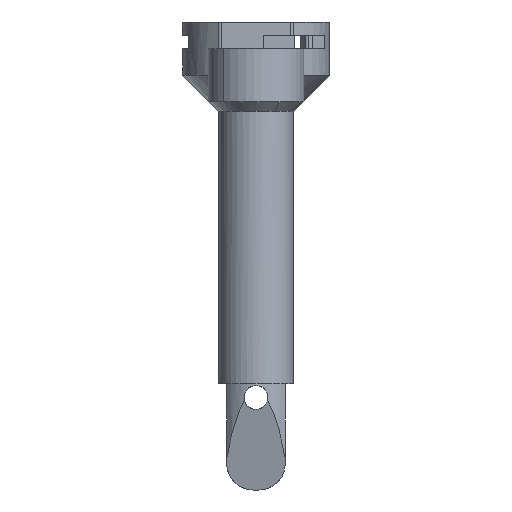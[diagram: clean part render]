
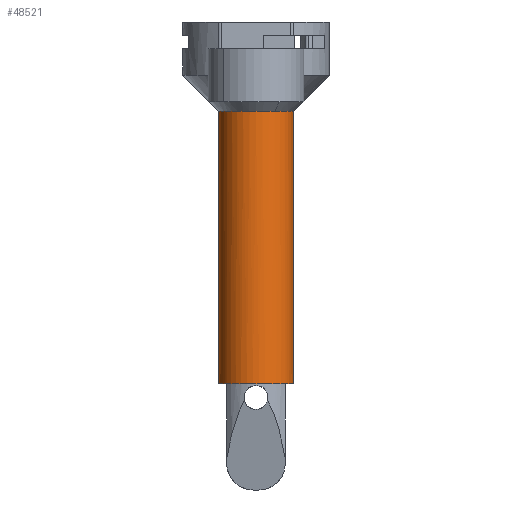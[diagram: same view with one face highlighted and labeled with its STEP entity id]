
A CAD part, front view. The second image highlights one B-rep face of the part: STEP entity #48521.
In plain terms, the highlighted cylindrical face has radius 7 mm (diameter 14 mm), a partial arc.
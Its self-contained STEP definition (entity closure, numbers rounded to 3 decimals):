
#48=AXIS2_PLACEMENT_3D('Circle Axis2P3D',#46,#47,$) ;
#113=AXIS2_PLACEMENT_3D('Circle Axis2P3D',#111,#112,$) ;
#158=AXIS2_PLACEMENT_3D('Circle Axis2P3D',#156,#157,$) ;
#48474=AXIS2_PLACEMENT_3D('Cylinder Axis2P3D',#48471,#48472,#48473) ;
#48478=AXIS2_PLACEMENT_3D('Circle Axis2P3D',#48476,#48477,$) ;
#48487=AXIS2_PLACEMENT_3D('Circle Axis2P3D',#48485,#48486,$) ;
#48492=AXIS2_PLACEMENT_3D('Circle Axis2P3D',#48490,#48491,$) ;
#48499=AXIS2_PLACEMENT_3D('Circle Axis2P3D',#48497,#48498,$) ;
#48506=AXIS2_PLACEMENT_3D('Circle Axis2P3D',#48504,#48505,$) ;
#41=CARTESIAN_POINT('Vertex',(3.5,-6.062,17.2)) ;
#46=CARTESIAN_POINT('Axis2P3D Location',(0.,0.,17.2)) ;
#50=CARTESIAN_POINT('Vertex',(7.,0.,17.2)) ;
#111=CARTESIAN_POINT('Axis2P3D Location',(0.,0.,17.2)) ;
#115=CARTESIAN_POINT('Vertex',(0.,-7.,17.2)) ;
#153=CARTESIAN_POINT('Vertex',(-7.,0.,17.2)) ;
#156=CARTESIAN_POINT('Axis2P3D Location',(0.,0.,17.2)) ;
#48430=CARTESIAN_POINT('Line Origine',(7.,0.,0.)) ;
#48434=CARTESIAN_POINT('Vertex',(7.,0.,-34.)) ;
#48441=CARTESIAN_POINT('Vertex',(-7.,0.,-34.)) ;
#48444=CARTESIAN_POINT('Line Origine',(-7.,0.,0.)) ;
#48471=CARTESIAN_POINT('Axis2P3D Location',(0.,0.,0.)) ;
#48476=CARTESIAN_POINT('Axis2P3D Location',(0.,0.,-34.)) ;
#48480=CARTESIAN_POINT('Vertex',(5.5,-4.33,-34.)) ;
#48482=CARTESIAN_POINT('Vertex',(5.745,-4.,-34.)) ;
#48485=CARTESIAN_POINT('Axis2P3D Location',(0.,0.,-34.)) ;
#48490=CARTESIAN_POINT('Axis2P3D Location',(0.,0.,-34.)) ;
#48494=CARTESIAN_POINT('Vertex',(-5.745,-4.,-34.)) ;
#48497=CARTESIAN_POINT('Axis2P3D Location',(0.,0.,-34.)) ;
#48501=CARTESIAN_POINT('Vertex',(-5.5,-4.33,-34.)) ;
#48504=CARTESIAN_POINT('Axis2P3D Location',(0.,0.,-34.)) ;
#47=DIRECTION('Axis2P3D Direction',(0.,0.,1.)) ;
#112=DIRECTION('Axis2P3D Direction',(0.,0.,1.)) ;
#157=DIRECTION('Axis2P3D Direction',(0.,0.,1.)) ;
#48431=DIRECTION('Vector Direction',(0.,0.,1.)) ;
#48445=DIRECTION('Vector Direction',(0.,0.,1.)) ;
#48472=DIRECTION('Axis2P3D Direction',(0.,0.,1.)) ;
#48473=DIRECTION('Axis2P3D XDirection',(-1.,0.,0.)) ;
#48477=DIRECTION('Axis2P3D Direction',(0.,0.,1.)) ;
#48486=DIRECTION('Axis2P3D Direction',(0.,0.,1.)) ;
#48491=DIRECTION('Axis2P3D Direction',(0.,0.,1.)) ;
#48498=DIRECTION('Axis2P3D Direction',(0.,0.,1.)) ;
#48505=DIRECTION('Axis2P3D Direction',(0.,0.,1.)) ;
#48432=VECTOR('Line Direction',#48431,1.) ;
#48446=VECTOR('Line Direction',#48445,1.) ;
#48510=ORIENTED_EDGE('',*,*,#48484,.T.) ;
#48511=ORIENTED_EDGE('',*,*,#48489,.T.) ;
#48512=ORIENTED_EDGE('',*,*,#48436,.T.) ;
#48513=ORIENTED_EDGE('',*,*,#52,.T.) ;
#48514=ORIENTED_EDGE('',*,*,#117,.T.) ;
#48515=ORIENTED_EDGE('',*,*,#160,.T.) ;
#48516=ORIENTED_EDGE('',*,*,#48448,.F.) ;
#48517=ORIENTED_EDGE('',*,*,#48496,.T.) ;
#48518=ORIENTED_EDGE('',*,*,#48503,.T.) ;
#48519=ORIENTED_EDGE('',*,*,#48508,.T.) ;
#48521=ADVANCED_FACE('\X2\96F64EF651E04F554F53\X0\',(#48520),#48475,.T.) ;
#49=CIRCLE('generated circle',#48,7.) ;
#114=CIRCLE('generated circle',#113,7.) ;
#159=CIRCLE('generated circle',#158,7.) ;
#48479=CIRCLE('generated circle',#48478,7.) ;
#48488=CIRCLE('generated circle',#48487,7.) ;
#48493=CIRCLE('generated circle',#48492,7.) ;
#48500=CIRCLE('generated circle',#48499,7.) ;
#48507=CIRCLE('generated circle',#48506,7.) ;
#48475=CYLINDRICAL_SURFACE('generated cylinder',#48474,7.) ;
#52=EDGE_CURVE('',#51,#42,#49,.F.) ;
#117=EDGE_CURVE('',#42,#116,#114,.F.) ;
#160=EDGE_CURVE('',#116,#154,#159,.F.) ;
#48436=EDGE_CURVE('',#48435,#51,#48433,.T.) ;
#48448=EDGE_CURVE('',#48442,#154,#48447,.T.) ;
#48484=EDGE_CURVE('',#48481,#48483,#48479,.T.) ;
#48489=EDGE_CURVE('',#48483,#48435,#48488,.T.) ;
#48496=EDGE_CURVE('',#48442,#48495,#48493,.T.) ;
#48503=EDGE_CURVE('',#48495,#48502,#48500,.T.) ;
#48508=EDGE_CURVE('',#48502,#48481,#48507,.T.) ;
#48509=EDGE_LOOP('',(#48510,#48511,#48512,#48513,#48514,#48515,#48516,#48517,#48518,#48519)) ;
#48520=FACE_OUTER_BOUND('',#48509,.T.) ;
#48433=LINE('Line',#48430,#48432) ;
#48447=LINE('Line',#48444,#48446) ;
#42=VERTEX_POINT('',#41) ;
#51=VERTEX_POINT('',#50) ;
#116=VERTEX_POINT('',#115) ;
#154=VERTEX_POINT('',#153) ;
#48435=VERTEX_POINT('',#48434) ;
#48442=VERTEX_POINT('',#48441) ;
#48481=VERTEX_POINT('',#48480) ;
#48483=VERTEX_POINT('',#48482) ;
#48495=VERTEX_POINT('',#48494) ;
#48502=VERTEX_POINT('',#48501) ;
